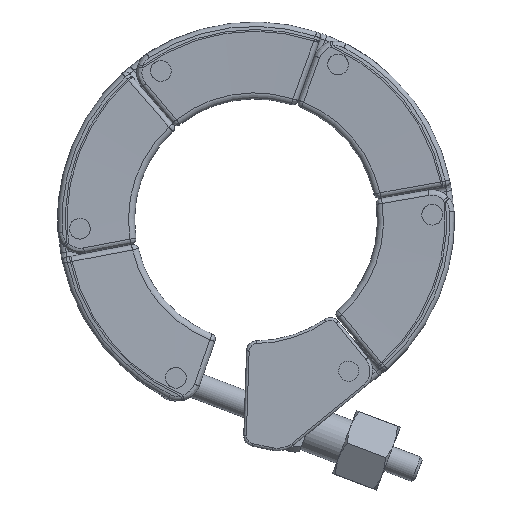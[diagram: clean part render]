
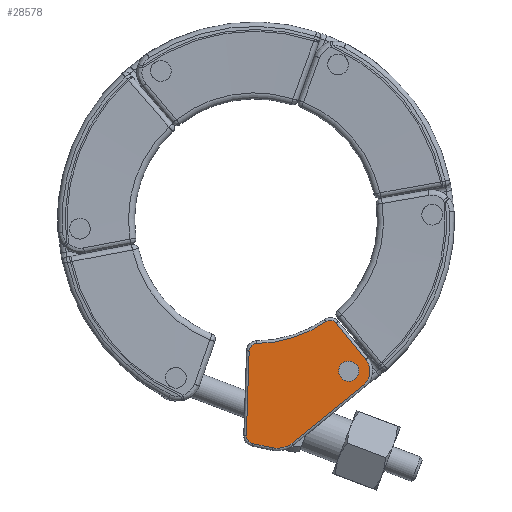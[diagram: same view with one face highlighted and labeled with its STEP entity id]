
A CAD part, left-side view. The second image highlights one B-rep face of the part: STEP entity #28578.
In plain terms, the highlighted planar face has unit normal (-1, 0, 0).
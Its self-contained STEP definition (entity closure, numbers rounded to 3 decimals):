
#26223=CARTESIAN_POINT('',(-9.0,-3.251,-43.89));
#26224=VERTEX_POINT('',#26223);
#26243=CARTESIAN_POINT('',(-9.0,-7.017,-42.977));
#26244=VERTEX_POINT('',#26243);
#26252=CARTESIAN_POINT('',(-9.0,-4.177,-39.486));
#26253=DIRECTION('',(1.0,0.0,0.0));
#26254=DIRECTION('',(0.0,-0.236,-0.972));
#26255=AXIS2_PLACEMENT_3D('',#26252,#26253,#26254);
#26256=CIRCLE('',#26255,4.5);
#26257=EDGE_CURVE('',#26244,#26224,#26256,.T.);
#26371=CARTESIAN_POINT('',(-9.0,0.602,-43.08));
#26372=VERTEX_POINT('',#26371);
#26373=CARTESIAN_POINT('',(-9.0,-3.251,-43.89));
#26374=DIRECTION('',(0.0,0.979,0.206));
#26375=VECTOR('',#26374,3.937);
#26376=LINE('',#26373,#26375);
#26377=EDGE_CURVE('',#26224,#26372,#26376,.T.);
#28342=CARTESIAN_POINT('',(-9.0,-20.73,-31.822));
#28343=VERTEX_POINT('',#28342);
#28351=CARTESIAN_POINT('',(-9.0,-20.73,-31.822));
#28352=DIRECTION('',(0.0,0.776,-0.631));
#28353=VECTOR('',#28352,17.677);
#28354=LINE('',#28351,#28353);
#28355=EDGE_CURVE('',#28343,#26244,#28354,.T.);
#28365=CARTESIAN_POINT('',(-9.0,1.792,-41.563));
#28366=VERTEX_POINT('',#28365);
#28376=CARTESIAN_POINT('',(-9.0,0.293,-41.612));
#28377=DIRECTION('',(1.0,0.0,0.0));
#28378=DIRECTION('',(0.0,0.787,-0.617));
#28379=AXIS2_PLACEMENT_3D('',#28376,#28377,#28378);
#28380=CIRCLE('',#28379,1.5);
#28381=EDGE_CURVE('',#26372,#28366,#28380,.T.);
#28391=CARTESIAN_POINT('',(-9.0,-21.236,-26.899));
#28392=VERTEX_POINT('',#28391);
#28400=CARTESIAN_POINT('',(-9.0,-18.521,-29.107));
#28401=DIRECTION('',(1.0,0.0,0.0));
#28402=DIRECTION('',(0.0,-0.995,-0.102));
#28403=AXIS2_PLACEMENT_3D('',#28400,#28401,#28402);
#28404=CIRCLE('',#28403,3.5);
#28405=EDGE_CURVE('',#28392,#28343,#28404,.T.);
#28417=CARTESIAN_POINT('',(-9.0,1.259,-25.25));
#28418=VERTEX_POINT('',#28417);
#28428=CARTESIAN_POINT('',(-9.0,1.792,-41.563));
#28429=DIRECTION('',(0.0,-0.033,0.999));
#28430=VECTOR('',#28429,16.322);
#28431=LINE('',#28428,#28430);
#28432=EDGE_CURVE('',#28366,#28418,#28431,.T.);
#28442=CARTESIAN_POINT('',(-9.0,-15.527,-19.881));
#28443=VERTEX_POINT('',#28442);
#28451=CARTESIAN_POINT('',(-9.0,-15.527,-19.881));
#28452=DIRECTION('',(0.0,-0.631,-0.776));
#28453=VECTOR('',#28452,9.047);
#28454=LINE('',#28451,#28453);
#28455=EDGE_CURVE('',#28443,#28392,#28454,.T.);
#28467=CARTESIAN_POINT('',(-9.0,-0.226,-23.799));
#28468=VERTEX_POINT('',#28467);
#28478=CARTESIAN_POINT('',(-9.0,-0.241,-25.299));
#28479=DIRECTION('',(1.0,0.0,0.0));
#28480=DIRECTION('',(0.0,0.699,0.715));
#28481=AXIS2_PLACEMENT_3D('',#28478,#28479,#28480);
#28482=CIRCLE('',#28481,1.5);
#28483=EDGE_CURVE('',#28418,#28468,#28482,.T.);
#28493=CARTESIAN_POINT('',(-9.0,-13.512,-19.592));
#28494=VERTEX_POINT('',#28493);
#28502=CARTESIAN_POINT('',(-9.0,-14.364,-20.827));
#28503=DIRECTION('',(1.0,0.0,0.0));
#28504=DIRECTION('',(0.0,-0.142,0.99));
#28505=AXIS2_PLACEMENT_3D('',#28502,#28503,#28504);
#28506=CIRCLE('',#28505,1.5);
#28507=EDGE_CURVE('',#28494,#28443,#28506,.T.);
#28522=CARTESIAN_POINT('',(-9.0,0.,0.));
#28523=DIRECTION('',(-1.0,0.0,0.0));
#28524=DIRECTION('',(0.0,-0.302,-0.953));
#28525=AXIS2_PLACEMENT_3D('',#28522,#28523,#28524);
#28526=CIRCLE('',#28525,23.8);
#28527=EDGE_CURVE('',#28468,#28494,#28526,.T.);
#28550=CARTESIAN_POINT('',(-9.0,-8.521,-31.511));
#28551=DIRECTION('',(1.0,0.0,0.0));
#28552=DIRECTION('',(0.0,0.0,-1.0));
#28553=AXIS2_PLACEMENT_3D('',#28550,#28551,#28552);
#28554=PLANE('',#28553);
#28555=ORIENTED_EDGE('',*,*,#26257,.F.);
#28556=ORIENTED_EDGE('',*,*,#28355,.F.);
#28557=ORIENTED_EDGE('',*,*,#28405,.F.);
#28558=ORIENTED_EDGE('',*,*,#28455,.F.);
#28559=ORIENTED_EDGE('',*,*,#28507,.F.);
#28560=ORIENTED_EDGE('',*,*,#28527,.F.);
#28561=ORIENTED_EDGE('',*,*,#28483,.F.);
#28562=ORIENTED_EDGE('',*,*,#28432,.F.);
#28563=ORIENTED_EDGE('',*,*,#28381,.F.);
#28564=ORIENTED_EDGE('',*,*,#26377,.F.);
#28565=EDGE_LOOP('',(#28555,#28556,#28557,#28558,#28559,#28560,#28561,#28562,#28563,#28564));
#28566=FACE_OUTER_BOUND('',#28565,.T.);
#28567=CARTESIAN_POINT('',(-9.0,-19.583,-28.076));
#28568=VERTEX_POINT('',#28567);
#28569=CARTESIAN_POINT('',(-9.0,-17.938,-29.122));
#28570=DIRECTION('',(1.0,0.0,0.0));
#28571=DIRECTION('',(0.0,0.844,-0.537));
#28572=AXIS2_PLACEMENT_3D('',#28569,#28570,#28571);
#28573=CIRCLE('',#28572,1.95);
#28574=EDGE_CURVE('',#28568,#28568,#28573,.T.);
#28575=ORIENTED_EDGE('',*,*,#28574,.T.);
#28576=EDGE_LOOP('',(#28575));
#28577=FACE_BOUND('',#28576,.T.);
#28578=ADVANCED_FACE('',(#28566,#28577),#28554,.F.);
